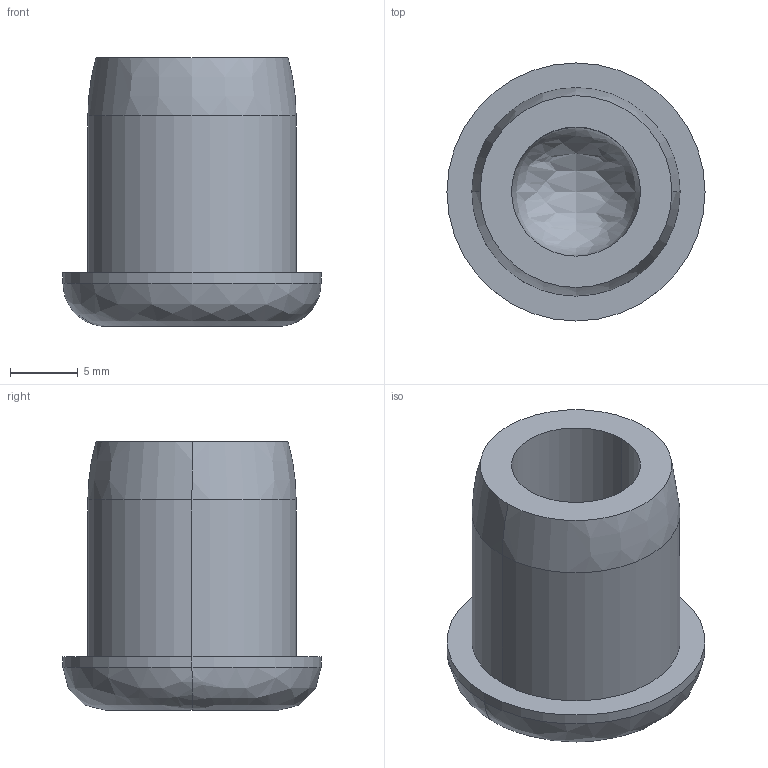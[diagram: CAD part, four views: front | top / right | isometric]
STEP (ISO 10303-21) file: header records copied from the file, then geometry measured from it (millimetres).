
FILE_DESCRIPTION (( 'STEP AP203' ), '1' );
FILE_NAME ('FDPCK-MC.625-END-CAP.step', '2019-09-11T18:36:38', ( 'ydmin' ), ( '' ), 'SwSTEP 2.0', 'SolidWorks 2017', '' );
FILE_SCHEMA (( 'CONFIG_CONTROL_DESIGN' ));
Length unit declared in the file: inch
Products named in the file (1): FDPCK-MC.625-END-CAP
Bounding box: 19.05 x 19.05 x 19.84 mm (x, y, z)
Volume: 2897 mm3; surface area: 1860.8 mm2
Topology: 1 solids, 1 shells, 14 faces, 30 edges, 18 vertices
Faces by surface type: cylinder 6, bspline 5, plane 3
Entity records: 510 total; most frequent: CARTESIAN_POINT 142, DIRECTION 66, ORIENTED_EDGE 56, AXIS2_PLACEMENT_3D 30, EDGE_CURVE 28, CIRCLE 20, VERTEX_POINT 18, EDGE_LOOP 16
